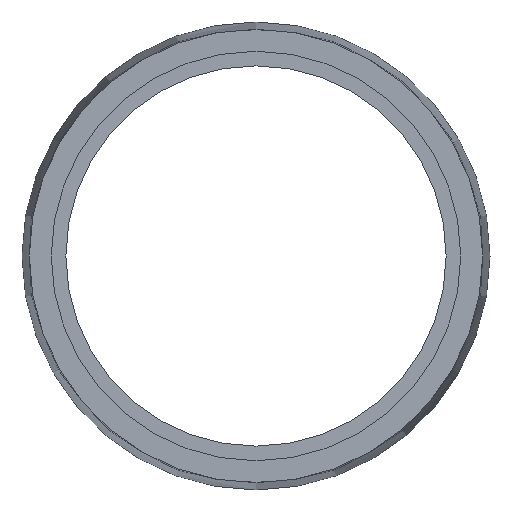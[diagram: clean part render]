
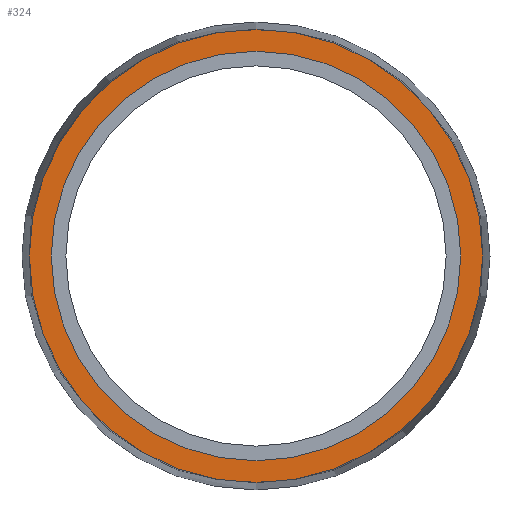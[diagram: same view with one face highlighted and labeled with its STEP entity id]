
A CAD part, left-side view. The second image highlights one B-rep face of the part: STEP entity #324.
In plain terms, the highlighted planar face has unit normal (-1, 0, 0).
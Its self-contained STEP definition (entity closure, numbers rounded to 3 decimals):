
#7 = PLANE ( 'NONE',  #154 ) ;
#18 = DIRECTION ( 'NONE',  ( 0., 0., -1. ) ) ;
#19 = DIRECTION ( 'NONE',  ( 1., 0., 0. ) ) ;
#20 = CARTESIAN_POINT ( 'NONE',  ( -104., 15.5, 0. ) ) ;
#45 = CARTESIAN_POINT ( 'NONE',  ( -104., 0., 15.5 ) ) ;
#47 = CARTESIAN_POINT ( 'NONE',  ( -104., 0., -14. ) ) ;
#57 = CARTESIAN_POINT ( 'NONE',  ( -104., 0., 14. ) ) ;
#60 = CARTESIAN_POINT ( 'NONE',  ( -104., 0., -15.5 ) ) ;
#102 = CIRCLE ( 'NONE', #104, 14. ) ;
#104 = AXIS2_PLACEMENT_3D ( 'NONE', #246, #254, #255 ) ;
#112 = CIRCLE ( 'NONE', #115, 15.5 ) ;
#115 = AXIS2_PLACEMENT_3D ( 'NONE', #192, #193, #194 ) ;
#120 = CIRCLE ( 'NONE', #124, 14. ) ;
#124 = AXIS2_PLACEMENT_3D ( 'NONE', #206, #207, #208 ) ;
#135 = CIRCLE ( 'NONE', #137, 15.5 ) ;
#137 = AXIS2_PLACEMENT_3D ( 'NONE', #225, #226, #227 ) ;
#154 = AXIS2_PLACEMENT_3D ( 'NONE', #20, #19, #18 ) ;
#192 = CARTESIAN_POINT ( 'NONE',  ( -104., 0., 0. ) ) ;
#193 = DIRECTION ( 'NONE',  ( -1., 0., 0. ) ) ;
#194 = DIRECTION ( 'NONE',  ( 0., 0., 1. ) ) ;
#206 = CARTESIAN_POINT ( 'NONE',  ( -104., 0., 0. ) ) ;
#207 = DIRECTION ( 'NONE',  ( -1., 0., 0. ) ) ;
#208 = DIRECTION ( 'NONE',  ( 0., 0., 1. ) ) ;
#225 = CARTESIAN_POINT ( 'NONE',  ( -104., 0., 0. ) ) ;
#226 = DIRECTION ( 'NONE',  ( -1., 0., 0. ) ) ;
#227 = DIRECTION ( 'NONE',  ( 0., 0., 1. ) ) ;
#246 = CARTESIAN_POINT ( 'NONE',  ( -104., 0., 0. ) ) ;
#254 = DIRECTION ( 'NONE',  ( -1., 0., 0. ) ) ;
#255 = DIRECTION ( 'NONE',  ( 0., 0., 1. ) ) ;
#284 = EDGE_CURVE ( 'NONE', #363, #373, #102, .T. ) ;
#297 = EDGE_CURVE ( 'NONE', #376, #361, #112, .T. ) ;
#302 = EDGE_CURVE ( 'NONE', #373, #363, #120, .T. ) ;
#309 = EDGE_CURVE ( 'NONE', #361, #376, #135, .T. ) ;
#324 = ADVANCED_FACE ( 'NONE', ( #470, #471 ), #7, .F. ) ;
#345 = EDGE_LOOP ( 'NONE', ( #435, #436 ) ) ;
#346 = EDGE_LOOP ( 'NONE', ( #434, #424 ) ) ;
#361 = VERTEX_POINT ( 'NONE', #45 ) ;
#363 = VERTEX_POINT ( 'NONE', #47 ) ;
#373 = VERTEX_POINT ( 'NONE', #57 ) ;
#376 = VERTEX_POINT ( 'NONE', #60 ) ;
#424 = ORIENTED_EDGE ( 'NONE', *, *, #309, .T. ) ;
#434 = ORIENTED_EDGE ( 'NONE', *, *, #297, .T. ) ;
#435 = ORIENTED_EDGE ( 'NONE', *, *, #302, .F. ) ;
#436 = ORIENTED_EDGE ( 'NONE', *, *, #284, .F. ) ;
#470 = FACE_BOUND ( 'NONE', #345, .T. ) ;
#471 = FACE_OUTER_BOUND ( 'NONE', #346, .T. ) ;
